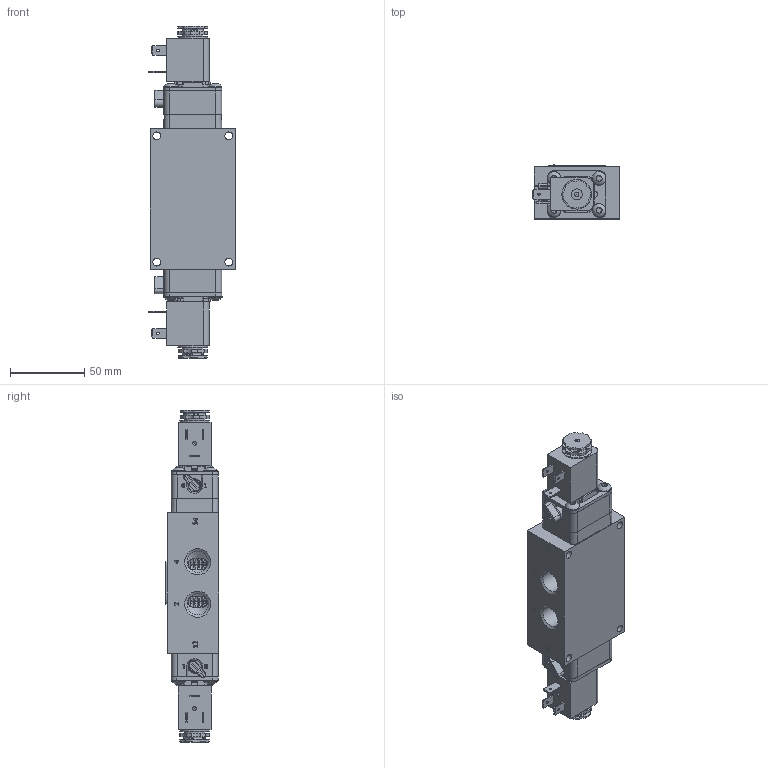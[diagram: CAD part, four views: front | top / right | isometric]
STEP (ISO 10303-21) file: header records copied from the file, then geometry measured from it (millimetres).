
FILE_DESCRIPTION(/* description */ (''),/* implementation_level */ '2;1');
FILE_NAME(/* name */ 'D:\Website Files\stp\Valves\Standard\ESY\ESY3OC.stp',/* time_stamp */ '2018-06-03T07:26:22-04:00',/* author */ ('RMcKenna'),/* organization */ (''),/* preprocessor_version */ 'ST-DEVELOPER v17',/* originating_system */ 'Autodesk Inventor 2018',/* authorisation */ '');
FILE_SCHEMA (('AUTOMOTIVE_DESIGN { 1 0 10303 214 3 1 1 }'));
Products named in the file (1): Part3
Bounding box: 58.17 x 36.27 x 223.18 mm (x, y, z)
Volume: 236615.4 mm3; surface area: 88359.6 mm2
Topology: 2 solids, 29 shells, 2334 faces, 6073 edges, 3951 vertices
Faces by surface type: plane 1071, cylinder 656, cone 287, torus 182, bspline 128, sphere 10
Full cylindrical faces by diameter (mm): 1.168 x20, 1.3 x2, 1.397 x2, 1.5 x2, 1.651 x6, 2.032 x8, 2.07 x2, 2.261 x2, 2.35 x8, 2.464 x2, 2.5 x2, 2.778 x2, 2.8 x2, 3 x8, 3.048 x2, 3.4 x2, 3.683 x13, 3.912 x3, 4.191 x4, 4.394 x1, 4.826 x8, 5.15 x8, 5.156 x12, 5.5 x2, 6.65 x2, 7.29 x2, 7.9 x2, 8 x4, 8.433 x2, 8.6 x4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
Entity records: 80570 total; most frequent: CARTESIAN_POINT 20508, ORIENTED_EDGE 12108, DIRECTION 12019, EDGE_CURVE 6054, AXIS2_PLACEMENT_3D 4488, VERTEX_POINT 3951, LINE 3043, VECTOR 3043
